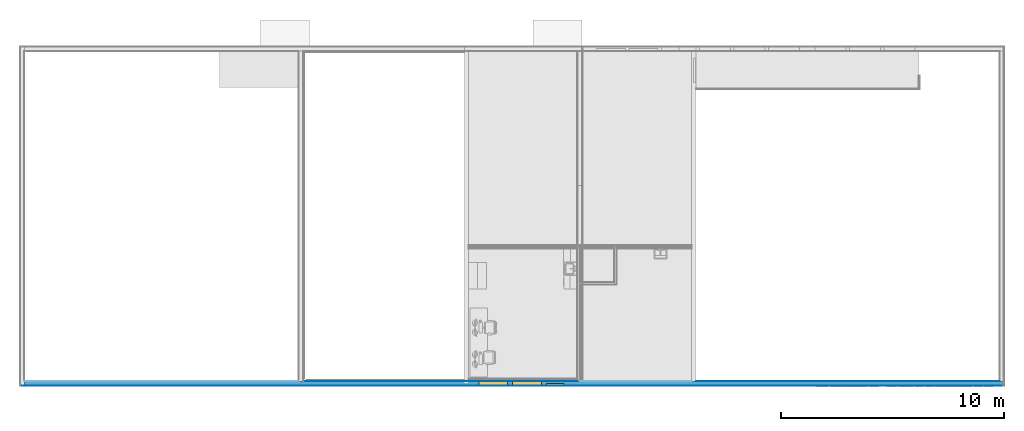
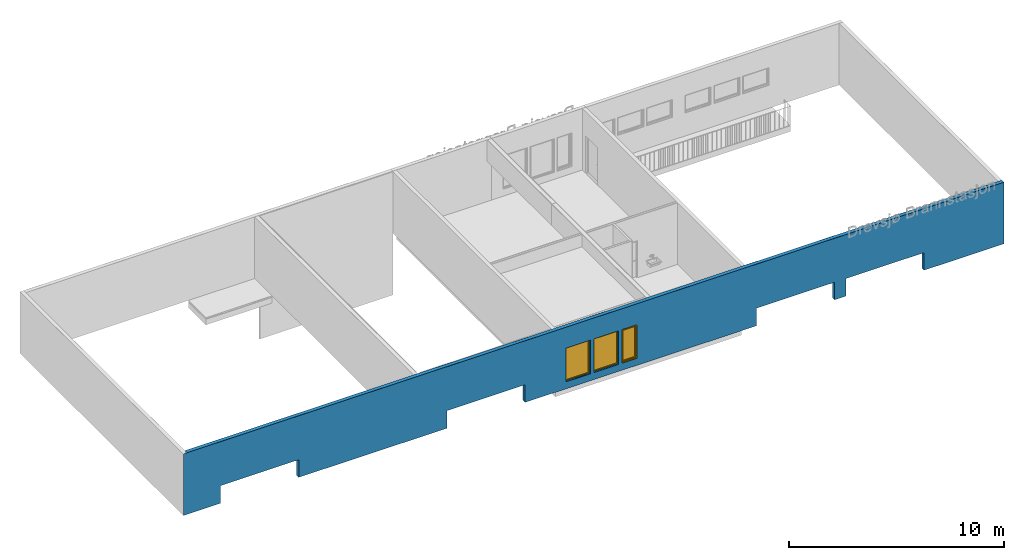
# One storey, part 3 of 12: 4 building element parts, 3 windows, 3 openings, 1 element without a shape of its own, plus 2 elements that do not belong to this part.
"""IFC4 building model written with IfcOpenShell, lengths in millimetres."""

from ifc_helpers import new_model, entity, si_unit, converted_unit, direction, frame, origin, place, context, subcontext, project, spatial, indexed_curve, outline, extrude, polygons, source, transform, mapped, material, constituent, constituent_set, type_object, type_shapes, element, fill, aggregate, save


model = new_model("IFC4")

# Units and contexts
model_context = context("Model", 3, precision=0.01, world=origin(), true_north=direction((0.0, 1.0)))
body_context = subcontext(model_context, "Body", "Model", "MODEL_VIEW")
ifc_project = project(units=[si_unit("LENGTHUNIT", "METRE", prefix="MILLI"), si_unit("AREAUNIT", "SQUARE_METRE"), si_unit("VOLUMEUNIT", "CUBIC_METRE"), converted_unit("PLANEANGLEUNIT", "DEGREE", entity("IfcPlaneAngleMeasure", 0.017453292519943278), si_unit("PLANEANGLEUNIT", "RADIAN"), dimensions=[0, 0, 0, 0, 0, 0, 0])], contexts=[model_context])

# Site, building, storey
site_placement = place(None, origin())
site = spatial("IfcSite", under=ifc_project, at=site_placement, Name="Tomtens navn", CompositionType="ELEMENT")
building_placement = place(site_placement, origin())
building = spatial("IfcBuilding", under=site, at=building_placement, Name="Byggets navn", CompositionType="ELEMENT")
storey_placement = place(building_placement, frame((0.0, 0.0, 3500.0)))
storey = spatial("IfcBuildingStorey", under=building, at=storey_placement, Name="Level 02", CompositionType="ELEMENT", Elevation=3499.999999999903)

# Window
ifc_material_1 = material(Name="NO_Maling - mørk grå", Category="Overflatebehandling")
ifc_constituent_1 = constituent(ifc_material_1, Name="NO_Maling - mørk grå", Category="Overflatebehandling", fraction=0.6291991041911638)
ifc_material_2 = material(Name="NO_Glass - Klart", Category="Unassigned")
ifc_constituent_2 = constituent(ifc_material_2, Name="NO_Glass - Klart", Category="Unassigned", fraction=0.37080089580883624)
ifc_constituent_set_1 = constituent_set(constituents=[ifc_constituent_1, ifc_constituent_2])
ifc_constituent_3 = constituent(ifc_material_1, Name="Frame/Mullion", Category="Overflatebehandling", fraction=0.6291991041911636)
ifc_constituent_4 = constituent(ifc_material_2, Name="Glass", Category="Unassigned", fraction=0.3708008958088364)
ifc_constituent_set_2 = constituent_set(constituents=[ifc_constituent_3, ifc_constituent_4])
window_type_1 = type_object("IfcWindowType", Name="Åpningsvindu:V02 8x19M", PartitioningType="NOTDEFINED", PredefinedType="WINDOW", material=ifc_constituent_set_2)
shared_shape_1 = source(origin(), body_context, "Body", "SweptSolid", [
    extrude(outline(indexed_curve([(-894.9999999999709, -344.9999999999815), (894.9999999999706, -344.9999999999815), (894.9999999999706, 344.9999999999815), (-894.9999999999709, 344.9999999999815), (-894.9999999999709, -344.9999999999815)], self_intersect=False), holes=[indexed_curve([(854.9999999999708, 304.9999999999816), (854.9999999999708, -304.9999999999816), (-854.9999999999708, -304.9999999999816), (-854.9999999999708, 304.9999999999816), (854.9999999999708, 304.9999999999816)], self_intersect=False)]), frame((405.0, 50.0, 955.0), z_axis=(0.0, 1.0, 0.0), x_axis=(0.0, 0.0, -1.0)), (0.0, 0.0, 1.0), 50.0),
    extrude(outline(indexed_curve([(-394.99999999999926, -945.0000000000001), (394.99999999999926, -945.0000000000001), (394.99999999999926, 944.9999999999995), (-394.99999999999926, 944.9999999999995), (-394.99999999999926, -945.0000000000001)], self_intersect=False), holes=[indexed_curve([(344.9999999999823, -894.9999999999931), (-344.999999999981, -894.9999999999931), (-344.9999999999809, 894.9999999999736), (344.99999999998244, 894.9999999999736), (344.9999999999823, -894.9999999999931)], self_intersect=False)]), frame((405.0, 0.0, 955.0), z_axis=(0.0, 1.0, 0.0), x_axis=(1.0, 0.0, 0.0)), (0.0, 0.0, 1.0), 100.0),
    extrude(outline(indexed_curve([(-9.999999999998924, -304.99999999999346), (10.000000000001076, -304.9999999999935), (9.99999999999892, 304.9999999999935), (-10.000000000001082, 304.99999999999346), (-9.999999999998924, -304.99999999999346)], self_intersect=False)), frame((405.0, 75.0, 100.0), z_axis=(0.0, 0.0, 1.0), x_axis=(0.0, -1.0, 0.0)), (0.0, 0.0, 1.0), 1710.0000000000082),
])
type_shapes(window_type_1, [shared_shape_1])
wall_placement = place(storey_placement, frame((82622.85352810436, 7961.466456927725, 0.0), z_axis=(0.0, 0.0, 1.0), x_axis=(-1.0, 0.0, 0.0)))
opening_1_placement = place(wall_placement, frame((20527.0, 100.0, 400.0)))
window_1_placement = place(opening_1_placement, frame((0.0, 0.0, 0.0), z_axis=(0.0, 0.0, 1.0), x_axis=(-1.0, 0.0, 0.0)))
window_1 = element("IfcWindow", 1, at=window_1_placement, inside=storey, type_object=window_type_1, material=ifc_constituent_set_1, Name="Åpningsvindu:V02 8x19M", OverallHeight=1910.0000000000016, OverallWidth=809.9999999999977, PartitioningType="NOTDEFINED", PredefinedType="WINDOW", context=body_context, shape_type="MappedRepresentation", body=[
    mapped(shared_shape_1, transform((0.0, 0.0, 0.0), scale=1.0)),
])

ifc_constituent_5 = constituent(ifc_material_1, Name="NO_Maling - mørk grå", Category="Overflatebehandling", fraction=0.39911882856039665)
ifc_constituent_6 = constituent(ifc_material_2, Name="NO_Glass - Klart", Category="Unassigned", fraction=0.5520539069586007)
ifc_material_3 = material(Name="Hvit", Category="Paint")
ifc_constituent_7 = constituent(ifc_material_3, Name="Hvit", Category="Paint", fraction=0.048827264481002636)
ifc_constituent_set_3 = constituent_set(constituents=[ifc_constituent_5, ifc_constituent_6, ifc_constituent_7])
ifc_constituent_8 = constituent(ifc_material_1, Name="Frame/Mullion", Category="Overflatebehandling", fraction=0.3207999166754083)
ifc_constituent_9 = constituent(ifc_material_2, Name="Glass", Category="Unassigned", fraction=0.4437246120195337)
ifc_constituent_10 = constituent(ifc_material_3, Name="Frame/Mullion", Category="Paint", fraction=0.23547547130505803)
ifc_constituent_set_4 = constituent_set(constituents=[ifc_constituent_8, ifc_constituent_9, ifc_constituent_10])
window_type_2 = type_object("IfcWindowType", Name="Fastvindu:V01 13x19M", PartitioningType="NOTDEFINED", PredefinedType="WINDOW", material=ifc_constituent_set_4)
shared_shape_2 = source(origin(), body_context, "Body", "SweptSolid", [
    extrude(outline(indexed_curve([(-644.9999999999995, -944.9999999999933), (644.9999999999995, -944.9999999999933), (644.9999999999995, 944.9999999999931), (-644.9999999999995, 944.9999999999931), (-644.9999999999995, -944.9999999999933)], self_intersect=False), holes=[indexed_curve([(594.9999999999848, -895.0000000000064), (-594.9999999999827, -895.0000000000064), (-594.9999999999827, 894.9999999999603), (594.9999999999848, 894.9999999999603), (594.9999999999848, -895.0000000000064)], self_intersect=False)]), frame((739.7965385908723, 90.0, 955.0), z_axis=(0.0, -1.0, 0.0), x_axis=(-1.0, 0.0, 0.0)), (0.0, 0.0, 1.0), 100.0),
    extrude(outline(indexed_curve([(-594.999999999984, -10.00000000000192), (594.999999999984, -9.99999999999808), (594.9999999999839, 10.00000000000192), (-594.9999999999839, 9.99999999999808), (-594.999999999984, -10.00000000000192)], self_intersect=False)), frame((739.7965385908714, 65.0, 60.0), z_axis=(0.0, 0.0, 1.0), x_axis=(-1.0, 0.0, 0.0)), (0.0, 0.0, 1.0), 1789.9999999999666),
    extrude(outline(indexed_curve([(-644.9999999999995, -944.9999999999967), (644.9999999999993, -944.999999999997), (644.9999999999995, 944.9999999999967), (-644.9999999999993, 944.999999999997), (-644.9999999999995, -944.9999999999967)], self_intersect=False), holes=[indexed_curve([(-624.9999999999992, 924.9999999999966), (624.9999999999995, 924.9999999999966), (624.9999999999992, -924.9999999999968), (-624.9999999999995, -924.9999999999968), (-624.9999999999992, 924.9999999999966)], self_intersect=False)]), frame((739.7965385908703, -10.0, 955.0), z_axis=(0.0, -1.0, 0.0), x_axis=(1.0, 0.0, 0.0)), (0.0, 0.0, 1.0), 29.999999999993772),
])
type_shapes(window_type_2, [shared_shape_2])
opening_2_placement = place(wall_placement, frame((20727.0, -100.0, 400.0)))
window_2_placement = place(opening_2_placement, frame((-84.7965385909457, 40.0, 0.0)))
window_2 = element("IfcWindow", 2, at=window_2_placement, inside=storey, type_object=window_type_2, material=ifc_constituent_set_3, Name="Fastvindu:V01 13x19M", OverallHeight=1910.000000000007, OverallWidth=1310.0000000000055, PartitioningType="NOTDEFINED", PredefinedType="WINDOW", context=body_context, shape_type="MappedRepresentation", body=[
    mapped(shared_shape_2, transform((0.0, 0.0, 0.0), scale=1.0)),
])

ifc_constituent_11 = constituent(ifc_material_1, Name="NO_Maling - mørk grå", Category="Overflatebehandling", fraction=0.39911882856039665)
ifc_constituent_12 = constituent(ifc_material_2, Name="NO_Glass - Klart", Category="Unassigned", fraction=0.5520539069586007)
ifc_constituent_13 = constituent(ifc_material_3, Name="Hvit", Category="Paint", fraction=0.048827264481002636)
ifc_constituent_set_5 = constituent_set(constituents=[ifc_constituent_11, ifc_constituent_12, ifc_constituent_13])
opening_3_placement = place(wall_placement, frame((22237.0, -100.0, 400.0)))
window_3_placement = place(opening_3_placement, frame((-84.79653859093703, 40.0, 0.0)))
window_3 = element("IfcWindow", 3, at=window_3_placement, inside=storey, type_object=window_type_2, material=ifc_constituent_set_5, Name="Fastvindu:V01 13x19M", OverallHeight=1910.000000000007, OverallWidth=1310.0000000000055, PartitioningType="NOTDEFINED", PredefinedType="WINDOW", context=body_context, shape_type="MappedRepresentation", body=[
    mapped(shared_shape_2, transform((0.0, 0.0, 0.0), scale=1.0)),
])

# Wall, opening
wall_type = type_object("IfcWallType", Name="Basic Wall:YV02 Sandwichvegg 200", PredefinedType="STANDARD")
wall = element("IfcWall", 4, at=wall_placement, inside=storey, type_object=wall_type, Name="Basic Wall:YV02 Sandwichvegg 200", PredefinedType="NOTDEFINED")
opening_1 = element("IfcOpeningElement", 5, at=opening_1_placement, cuts=wall, Name="Åpningsvindu:V02 8x19M:1", PredefinedType="OPENING", context=body_context, shape_type="SweptSolid", body=[
    extrude(outline(indexed_curve([(0.0, -5.414335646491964e-13), (1910.0000000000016, -5.414335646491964e-13), (1910.0000000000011, 809.9999999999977), (0.0, 809.9999999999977), (0.0, -5.414335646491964e-13)], self_intersect=False)), frame((0.0, 0.0, 0.0), z_axis=(0.0, -1.0, 0.0), x_axis=(0.0, 0.0, 1.0)), (0.0, 0.0, 1.0), 200.0),
])

fill(opening_1, window_1)

# Opening
opening_2 = element("IfcOpeningElement", 6, at=opening_2_placement, cuts=wall, Name="Fastvindu:V01 13x19M:1", PredefinedType="OPENING", context=body_context, shape_type="SweptSolid", body=[
    extrude(outline(indexed_curve([(0.0, 1310.0000000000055), (0.0, 1.4975171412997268e-29), (1910.000000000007, 1.4975171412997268e-29), (1910.000000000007, 1310.0000000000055), (0.0, 1310.0000000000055)], self_intersect=False)), frame((0.0, 0.0, 0.0), z_axis=(0.0, 1.0, 0.0), x_axis=(0.0, 0.0, 1.0)), (0.0, 0.0, 1.0), 200.0),
])

fill(opening_2, window_2)

opening_3 = element("IfcOpeningElement", 7, at=opening_3_placement, cuts=wall, Name="Fastvindu:V01 13x19M:1", PredefinedType="OPENING", context=body_context, shape_type="SweptSolid", body=[
    extrude(outline(indexed_curve([(0.0, 1310.0000000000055), (0.0, 1.6847067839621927e-29), (1910.000000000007, 1.6847067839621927e-29), (1910.000000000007, 1310.0000000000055), (0.0, 1310.0000000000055)], self_intersect=False)), frame((0.0, 0.0, 0.0), z_axis=(0.0, 1.0, 0.0), x_axis=(0.0, 0.0, 1.0)), (0.0, 0.0, 1.0), 200.0),
])

fill(opening_3, window_3)

# Building element part
ifc_material_4 = material(Name="Metall - Malt overflate - Mørk Grå, Matt", Category="Unassigned")
building_element_part_1_placement = place(wall_placement, frame((44108.0, 100.0, 0.0)))
building_element_part_1 = element("IfcBuildingElementPart", 8, at=building_element_part_1_placement, material=ifc_material_4, Name="Metall - Malt overflate - Mørk Grå, Matt", context=body_context, shape_type="Tessellation", body=[
    polygons([(-22071.000000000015, -1.9999999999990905, 2310.000000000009), (-22071.000000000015, -1.9999999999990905, 400.0000000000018), (-23381.000000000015, -1.999999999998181, 400.0000000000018), (-23381.000000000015, -1.999999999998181, 2310.000000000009), (-20561.00000000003, -1.9999999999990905, 2310.000000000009), (-20561.000000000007, -1.9999999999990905, 400.0000000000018), (-21871.000000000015, -1.9999999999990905, 400.0000000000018), (-21871.000000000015, -1.9999999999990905, 2310.000000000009), (-23581.000000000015, -1.999999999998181, 2310.0000000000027), (-23581.000000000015, -1.999999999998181, 400.00000000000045), (-24391.000000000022, -1.999999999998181, 400.00000000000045), (-24391.000000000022, -1.999999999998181, 2310.0000000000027), (-14168.000000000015, -1.999999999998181, 4.547473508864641e-13), (-6208.000000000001, -1.9999999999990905, 4.547473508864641e-13), (-6207.999999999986, -1.9999999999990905, 1000.0000000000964), (-2008.000000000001, -1.9999999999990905, 1000.0000000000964), (-2008.000000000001, -1.9999999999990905, 4.547473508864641e-13), (-8.699627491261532e-13, -1.9999999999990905, 4.547473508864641e-13), (-8.699627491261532e-13, -1.9999999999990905, 3499.9999999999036), (-44107.99999999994, -1.9999999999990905, 3499.9999999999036), (-44107.99999999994, -1.9999999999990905, 4.547473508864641e-13), (-39808.00000000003, -1.9999999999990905, 4.547473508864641e-13), (-39808.00000000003, -1.9999999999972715, 999.9999999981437), (-35608.00000000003, -1.999999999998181, 999.9999999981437), (-35608.00000000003, -1.999999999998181, 4.547473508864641e-13), (-35008.000000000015, -1.999999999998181, 4.547473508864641e-13), (-35008.000000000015, -1.999999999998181, 999.9999999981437), (-30808.000000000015, -1.9999999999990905, 999.9999999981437), (-30808.000000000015, -1.9999999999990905, 4.547473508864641e-13), (-18368.000000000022, -1.9999999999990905, 4.547473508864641e-13), (-18368.000000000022, -1.9999999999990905, 1000.0000000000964), (-14168.000000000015, -1.999999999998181, 1000.0000000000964), (-44107.99999999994, 9.094947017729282e-13, 4.547473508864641e-13), (-39808.00000000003, 9.094947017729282e-13, 4.547473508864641e-13), (-43907.99999999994, 9.094947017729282e-13, 3499.9999999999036), (-44107.99999999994, 9.094947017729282e-13, 3499.9999999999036), (-8.697414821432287e-13, 9.094947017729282e-13, 3499.9999999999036), (-23581.000000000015, 9.094947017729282e-13, 2310.0000000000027), (-23581.000000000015, 9.094947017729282e-13, 400.00000000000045), (-24391.000000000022, 9.094947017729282e-13, 2310.0000000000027), (-24391.000000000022, 9.094947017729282e-13, 400.00000000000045), (-20561.00000000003, 0.0, 2310.000000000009), (-20561.000000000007, 0.0, 400.0000000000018), (-21871.000000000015, 0.0, 2310.000000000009), (-21871.000000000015, 0.0, 400.0000000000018), (-22071.000000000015, 0.0, 2310.000000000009), (-22071.000000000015, 0.0, 400.0000000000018), (-23381.000000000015, 9.094947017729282e-13, 2310.000000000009), (-23381.000000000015, 9.094947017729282e-13, 400.0000000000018), (-14168.000000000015, 1.8189894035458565e-12, 1000.0000000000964), (-14168.000000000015, 1.8189894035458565e-12, 4.547473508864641e-13), (-18368.000000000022, 0.0, 1000.0000000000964), (-18368.000000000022, 0.0, 4.547473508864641e-13), (-35008.000000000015, 9.094947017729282e-13, 4.547473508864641e-13), (-35008.00000000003, 9.094947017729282e-13, 999.9999999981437), (-30808.000000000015, 0.0, 999.9999999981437), (-30808.000000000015, 0.0, 4.547473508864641e-13), (-39808.00000000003, 9.094947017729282e-13, 999.9999999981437), (-35608.00000000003, 9.094947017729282e-13, 999.9999999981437), (-35608.00000000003, 9.094947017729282e-13, 4.547473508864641e-13), (-2008.000000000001, 9.094947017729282e-13, 1000.0000000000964), (-2008.0000000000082, 9.094947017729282e-13, 4.547473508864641e-13), (-6208.000000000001, 9.094947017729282e-13, 1000.0000000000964), (-6208.000000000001, 9.094947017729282e-13, 4.547473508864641e-13), (-12498.000000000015, 0.0, 4.547473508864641e-13), (-12698.000000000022, 0.0, 4.547473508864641e-13), (-8.697414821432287e-13, 9.094947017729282e-13, 4.547473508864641e-13)], [[[13, 14, 15, 16, 17, 18, 19, 20, 21, 22, 23, 24, 25, 26, 27, 28, 29, 30, 31, 32], [1, 2, 3, 4], [5, 6, 7, 8], [9, 10, 11, 12]], [[33, 34, 22, 21]], [[35, 36, 20, 19, 37]], [[38, 39, 10, 9]], [[40, 38, 9, 12]], [[41, 40, 12, 11]], [[39, 41, 11, 10]], [[42, 43, 6, 5]], [[44, 42, 5, 8]], [[45, 44, 8, 7]], [[43, 45, 7, 6]], [[46, 47, 2, 1]], [[48, 46, 1, 4]], [[49, 48, 4, 3]], [[47, 49, 3, 2]], [[50, 51, 13, 32]], [[52, 50, 32, 31]], [[53, 52, 31, 30]], [[54, 55, 27, 26]], [[55, 56, 28, 27]], [[56, 57, 29, 28]], [[34, 58, 23, 22]], [[58, 59, 24, 23]], [[59, 60, 25, 24]], [[36, 33, 21, 20]], [[61, 62, 17, 16]], [[63, 61, 16, 15]], [[64, 63, 15, 14]], [[60, 54, 26, 25]], [[57, 53, 30, 29]], [[65, 64, 14, 13, 51, 66]], [[62, 67, 18, 17]], [[36, 35, 37, 67, 62, 61, 63, 64, 65, 66, 51, 50, 52, 53, 57, 56, 55, 54, 60, 59, 58, 34, 33], [39, 38, 40, 41], [43, 42, 44, 45], [47, 46, 48, 49]], [[67, 37, 19, 18]]], closed=True),
])

ifc_material_5 = material(Name="Rustfritt Stål", Category="Metal")
building_element_part_2_placement = place(wall_placement, frame((19005.499999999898, -98.0, 0.0)))
building_element_part_2 = element("IfcBuildingElementPart", 9, at=building_element_part_2_placement, material=ifc_material_5, Name="Rustfritt Stål", context=body_context, shape_type="Tessellation", body=[
    polygons([(-8.916469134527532e-13, 9.094947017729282e-13, -9.094947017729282e-13), (-8.916469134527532e-13, 9.094947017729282e-13, 2290.000000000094), (-8.918681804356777e-13, -1.9999999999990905, 2290.000000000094), (-8.918681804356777e-13, -1.9999999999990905, -9.094947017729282e-13), (-5005.499999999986, -1.8189894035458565e-12, 3499.9999999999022), (-5005.499999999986, -1.8189894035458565e-12, -9.094947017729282e-13), (-5005.499999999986, -2.0000000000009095, -9.094947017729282e-13), (-5005.499999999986, -2.0000000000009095, 3499.999999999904), (-104.99999999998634, -1.9999999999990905, 2290.000000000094), (-104.99999999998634, 9.094947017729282e-13, 2290.000000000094), (-104.99999999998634, 9.094947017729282e-13, 3499.9999999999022), (-104.99999999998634, -1.9999999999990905, 3499.999999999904), (-130.99999999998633, -1.9999999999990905, 3499.999999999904), (-28.00000000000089, -1.9999999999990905, -9.094947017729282e-13)], [[[1, 2, 3, 4]], [[5, 6, 7, 8]], [[9, 10, 11, 12]], [[10, 9, 3, 2]], [[13, 8, 7, 14, 4, 3, 9, 12]], [[14, 7, 6, 1, 4]], [[8, 13, 12, 11, 5]], [[2, 1, 6, 5, 11, 10]]], closed=True),
])

building_element_part_3_placement = place(wall_placement, frame((31412.0, -98.0, 0.0)))
building_element_part_3 = element("IfcBuildingElementPart", 10, at=building_element_part_3_placement, material=ifc_material_5, Name="Rustfritt Stål", context=body_context, shape_type="Tessellation", body=[
    polygons([(-10885.0, 0.0, 2310.000000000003), (-10885.0, 0.0, 400.0000000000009), (-10885.0, -2.0, 400.0000000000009), (-10885.0, -2.0, 2310.000000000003), (-11695.000000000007, 0.0, 2310.000000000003), (-11695.000000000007, -2.0, 2310.000000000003), (-11695.000000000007, 0.0, 400.0000000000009), (-11695.000000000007, -2.0, 400.0000000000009), (-7865.0000000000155, -9.094947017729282e-13, 2310.0000000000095), (-7864.999999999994, -9.094947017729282e-13, 400.0000000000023), (-7864.999999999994, -2.0000000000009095, 400.0000000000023), (-7864.999999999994, -2.0000000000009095, 2310.0000000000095), (-9175.0, -9.094947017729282e-13, 2310.0000000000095), (-9175.0, -2.0000000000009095, 2310.0000000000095), (-9175.0, -9.094947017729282e-13, 400.0000000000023), (-9175.0, -2.0000000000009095, 400.0000000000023), (-9375.0, -9.094947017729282e-13, 2310.0000000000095), (-9375.0, -9.094947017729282e-13, 400.0000000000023), (-9375.0, -2.0000000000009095, 400.0000000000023), (-9375.0, -2.0000000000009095, 2310.0000000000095), (-10685.0, 0.0, 2310.0000000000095), (-10685.0, -2.0, 2310.0000000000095), (-10685.0, 0.0, 400.0000000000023), (-10685.0, -2.0, 400.0000000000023), (-1472.000000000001, -9.094947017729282e-13, 1000.0000000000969), (-1472.000000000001, -9.094947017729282e-13, 9.094947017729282e-13), (-1472.000000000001, -2.0000000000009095, 9.094947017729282e-13), (-1472.000000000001, -2.0000000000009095, 1000.0000000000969), (-5672.000000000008, 0.0, 1000.0000000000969), (-5672.000000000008, -2.0000000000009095, 1000.0000000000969), (-5672.000000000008, -9.094947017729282e-13, 9.094947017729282e-13), (-5672.000000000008, -2.0000000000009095, 9.094947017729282e-13), (-8.16760452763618e-12, -9.094947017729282e-13, 9.094947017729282e-13), (-8.167825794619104e-12, -2.0000000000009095, 9.094947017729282e-13), (-2.0000000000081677, -2.0000000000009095, 9.094947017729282e-13), (-8.16760452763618e-12, -9.094947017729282e-13, 3499.999999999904), (-8.167825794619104e-12, -2.0000000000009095, 3499.999999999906), (-12311.50000000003, 0.0, 9.094947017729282e-13), (-12311.50000000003, -2.0, 9.094947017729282e-13), (-12311.500000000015, -2.0, 3499.999999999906), (-12311.500000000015, 0.0, 3499.999999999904), (-7412.000000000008, -2.0000000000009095, 3499.999999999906), (-12285.500000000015, -2.0, 3499.999999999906), (-12285.50000000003, -2.0, 9.094947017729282e-13), (-7412.000000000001, -2.0000000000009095, 9.094947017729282e-13), (-2.0000000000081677, -2.0000000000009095, 3499.999999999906)], [[[1, 2, 3, 4]], [[5, 1, 4, 6]], [[7, 5, 6, 8]], [[2, 7, 8, 3]], [[9, 10, 11, 12]], [[13, 9, 12, 14]], [[15, 13, 14, 16]], [[10, 15, 16, 11]], [[17, 18, 19, 20]], [[21, 17, 20, 22]], [[23, 21, 22, 24]], [[18, 23, 24, 19]], [[25, 26, 27, 28]], [[29, 25, 28, 30]], [[31, 29, 30, 32]], [[27, 26, 33, 34, 35]], [[33, 36, 37, 34]], [[38, 39, 40, 41]], [[42, 43, 40, 39, 44, 45, 32, 30, 28, 27, 35, 34, 37, 46], [4, 3, 8, 6], [12, 11, 16, 14], [20, 19, 24, 22]], [[31, 32, 45, 44, 39, 38]], [[43, 42, 46, 37, 36, 41, 40]], [[26, 25, 29, 31, 38, 41, 36, 33], [2, 1, 5, 7], [10, 9, 13, 15], [18, 17, 21, 23]]], closed=True),
])

building_element_part_4_placement = place(wall_placement, frame((43910.0, -98.0, 0.0)))
building_element_part_4 = element("IfcBuildingElementPart", 11, at=building_element_part_4_placement, material=ifc_material_5, Name="Rustfritt Stål", context=body_context, shape_type="Tessellation", body=[
    polygons([(-12300.000000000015, -2.0, 3499.9999999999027), (-8.918681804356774e-13, -1.9999999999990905, 3499.9999999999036), (-8.91646913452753e-13, 0.0, 3499.9999999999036), (-12302.000000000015, 0.0, 3499.9999999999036), (-12302.000000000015, -2.0, 3499.9999999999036), (-8.91646913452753e-13, 0.0, 4.547473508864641e-13), (-8.918681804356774e-13, -1.9999999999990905, 4.547473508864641e-13), (-1810.0000000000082, 0.0, 1000.0000000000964), (-1810.000000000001, 0.0, 4.547473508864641e-13), (-1810.0000000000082, -1.9999999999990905, 4.547473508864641e-13), (-1810.000000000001, -1.9999999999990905, 1000.0000000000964), (-6009.999999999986, -9.094947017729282e-13, 1000.0000000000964), (-6010.000000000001, -2.0000000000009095, 1000.0000000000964), (-6010.000000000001, -9.094947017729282e-13, 4.547473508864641e-13), (-6010.000000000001, -2.0000000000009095, 4.547473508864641e-13), (-12302.000000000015, 0.0, 4.547473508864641e-13), (-12302.000000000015, -2.0, 4.547473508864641e-13), (-12300.000000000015, -2.0, 4.547473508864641e-13)], [[[1, 2, 3, 4, 5]], [[6, 3, 2, 7]], [[8, 9, 10, 11]], [[12, 8, 11, 13]], [[14, 12, 13, 15]], [[9, 6, 7, 10]], [[4, 16, 17, 5]], [[2, 1, 5, 17, 18, 15, 13, 11, 10, 7]], [[14, 15, 18, 17, 16]], [[3, 6, 9, 8, 12, 14, 16, 4]]], closed=True),
])

building_element_part_5_placement = place(wall_placement, frame((13800.0, -98.0, 0.0)))
building_element_part_5 = element("IfcBuildingElementPart", 12, at=building_element_part_5_placement, material=ifc_material_5, Name="Rustfritt Stål", context=body_context, shape_type="Tessellation", body=[
    polygons([(-500.0000000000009, -3.637978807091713e-12, 9.094947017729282e-13), (-500.0000000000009, -3.637978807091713e-12, 999.9999999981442), (-4700.000000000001, -2.7284841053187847e-12, 999.9999999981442), (-4700.000000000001, -2.7284841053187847e-12, 9.094947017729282e-13), (-5300.0000000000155, -2.7284841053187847e-12, 9.094947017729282e-13), (-5300.0000000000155, -2.7284841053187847e-12, 999.9999999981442), (-9500.000000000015, -1.8189894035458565e-12, 999.9999999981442), (-9500.000000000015, -1.8189894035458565e-12, 9.094947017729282e-13), (-13601.999999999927, -1.8189894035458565e-12, 9.094947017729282e-13), (-13601.999999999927, -1.8189894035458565e-12, 3499.999999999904), (-1.5443562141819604e-11, -3.637978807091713e-12, 3499.999999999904), (-1.5443562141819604e-11, -9.094947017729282e-13, 9.094947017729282e-13), (-9500.000000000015, -2.0000000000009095, 9.094947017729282e-13), (-13599.999999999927, -2.0000000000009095, 9.094947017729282e-13), (-13601.999999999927, -2.0000000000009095, 9.094947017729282e-13), (-4700.000000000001, -2.000000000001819, 999.9999999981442), (-4700.000000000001, -2.000000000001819, 9.094947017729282e-13), (-500.0000000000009, -2.0000000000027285, 999.9999999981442), (-500.0000000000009, -2.0000000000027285, 9.094947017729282e-13), (-9500.000000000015, -2.0000000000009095, 999.9999999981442), (-5300.0000000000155, -2.000000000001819, 999.9999999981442), (-5300.0000000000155, -2.000000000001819, 9.094947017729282e-13), (-1.544378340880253e-11, -2.0000000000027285, 9.094947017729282e-13), (-1.544378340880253e-11, -2.0000000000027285, 3499.999999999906), (-13599.999999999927, -2.0000000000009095, 3499.999999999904), (-13601.999999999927, -2.0000000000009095, 3499.999999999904)], [[[1, 2, 3, 4, 5, 6, 7, 8, 9, 10, 11, 12]], [[9, 8, 13, 14, 15]], [[4, 3, 16, 17]], [[3, 2, 18, 16]], [[2, 1, 19, 18]], [[8, 7, 20, 13]], [[7, 6, 21, 20]], [[6, 5, 22, 21]], [[5, 4, 17, 22]], [[19, 1, 12, 23]], [[15, 14, 13, 20, 21, 22, 17, 16, 18, 19, 23, 24, 25, 26]], [[15, 26, 10, 9]], [[12, 11, 24, 23]], [[26, 25, 24, 11, 10]]], closed=True),
])

ifc_material_6 = material(Name="NO_Isolasjon - Fast", Category="Isolasjon")
building_element_part_6_placement = place(wall_placement, frame((43912.0, 98.0, 0.0)))
building_element_part_6 = element("IfcBuildingElementPart", 13, at=building_element_part_6_placement, material=ifc_material_6, Name="NO_Isolasjon - Fast", context=body_context, shape_type="Tessellation", body=[
    polygons([(-21875.000000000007, -9.094947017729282e-13, 400.0000000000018), (-21875.000000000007, -9.094947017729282e-13, 2310.000000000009), (-23185.000000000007, 0.0, 2310.000000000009), (-23185.000000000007, 0.0, 400.0000000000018), (-20365.0, -9.094947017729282e-13, 400.0000000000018), (-20365.000000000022, -9.094947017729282e-13, 2310.000000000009), (-21675.000000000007, -9.094947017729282e-13, 2310.000000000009), (-21675.000000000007, -9.094947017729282e-13, 400.0000000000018), (-23385.000000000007, 0.0, 400.00000000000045), (-23385.000000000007, 0.0, 2310.0000000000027), (-24195.000000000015, 0.0, 2310.0000000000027), (-24195.000000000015, 0.0, 400.00000000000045), (-6011.999999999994, -9.094947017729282e-13, 4.547473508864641e-13), (-13972.000000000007, 0.0, 4.547473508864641e-13), (-13972.000000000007, 0.0, 1000.0000000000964), (-18172.000000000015, -9.094947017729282e-13, 1000.0000000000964), (-18172.000000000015, -9.094947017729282e-13, 4.547473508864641e-13), (-30612.000000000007, -9.094947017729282e-13, 4.547473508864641e-13), (-30612.000000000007, -9.094947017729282e-13, 999.9999999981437), (-34812.00000000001, 0.0, 999.9999999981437), (-34812.00000000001, 0.0, 4.547473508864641e-13), (-35412.00000000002, 0.0, 4.547473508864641e-13), (-35412.00000000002, 0.0, 999.9999999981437), (-39612.00000000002, 9.094947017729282e-13, 999.9999999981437), (-39612.00000000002, -9.094947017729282e-13, 4.547473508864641e-13), (-43909.99999999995, -9.094947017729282e-13, 4.547473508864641e-13), (-43909.99999999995, -9.094947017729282e-13, 3499.9999999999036), (-8.699627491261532e-13, -9.094947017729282e-13, 3499.9999999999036), (-8.699627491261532e-13, -9.094947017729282e-13, 4.547473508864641e-13), (-1811.9999999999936, -9.094947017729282e-13, 4.547473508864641e-13), (-1811.9999999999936, -9.094947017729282e-13, 1000.0000000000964), (-6011.999999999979, -9.094947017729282e-13, 1000.0000000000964), (-21875.000000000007, -196.00000000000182, 2310.000000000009), (-21875.000000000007, -196.00000000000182, 400.0000000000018), (-23185.000000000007, -196.0000000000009, 400.0000000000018), (-23185.000000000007, -196.0000000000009, 2310.000000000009), (-20365.000000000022, -196.00000000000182, 2310.000000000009), (-20365.0, -196.00000000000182, 400.0000000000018), (-21675.000000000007, -196.00000000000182, 400.0000000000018), (-21675.000000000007, -196.00000000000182, 2310.000000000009), (-23385.000000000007, -196.0000000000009, 2310.0000000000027), (-23385.000000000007, -196.0000000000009, 400.00000000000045), (-24195.000000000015, -196.0000000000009, 400.00000000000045), (-24195.000000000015, -196.0000000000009, 2310.0000000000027), (-13972.000000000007, -196.00000000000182, 4.547473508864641e-13), (-6011.999999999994, -196.00000000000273, 4.547473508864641e-13), (-6011.999999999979, -196.00000000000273, 1000.0000000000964), (-1812.000000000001, -196.00000000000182, 1000.0000000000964), (-1811.9999999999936, -196.00000000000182, 4.547473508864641e-13), (-8.91646913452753e-13, -196.00000000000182, 4.547473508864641e-13), (-8.91646913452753e-13, -196.00000000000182, 3499.9999999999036), (-43909.99999999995, -196.00000000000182, 3499.9999999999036), (-43909.99999999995, -196.00000000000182, 4.547473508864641e-13), (-39612.00000000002, -196.00000000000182, 4.547473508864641e-13), (-39612.00000000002, -196.00000000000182, 999.9999999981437), (-35412.00000000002, -196.00000000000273, 999.9999999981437), (-35412.00000000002, -196.00000000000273, 4.547473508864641e-13), (-34812.00000000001, -196.00000000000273, 4.547473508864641e-13), (-34812.00000000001, -196.00000000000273, 999.9999999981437), (-30612.000000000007, -196.00000000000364, 999.9999999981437), (-30612.000000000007, -196.00000000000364, 4.547473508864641e-13), (-18172.000000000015, -196.00000000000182, 4.547473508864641e-13), (-18172.000000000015, -196.0000000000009, 1000.0000000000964), (-13972.000000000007, -196.00000000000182, 1000.0000000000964)], [[[13, 14, 15, 16, 17, 18, 19, 20, 21, 22, 23, 24, 25, 26, 27, 28, 29, 30, 31, 32], [1, 2, 3, 4], [5, 6, 7, 8], [9, 10, 11, 12]], [[45, 46, 47, 48, 49, 50, 51, 52, 53, 54, 55, 56, 57, 58, 59, 60, 61, 62, 63, 64], [33, 34, 35, 36], [37, 38, 39, 40], [41, 42, 43, 44]], [[53, 26, 25, 54]], [[51, 28, 27, 52]], [[9, 42, 41, 10]], [[10, 41, 44, 11]], [[11, 44, 43, 12]], [[42, 9, 12, 43]], [[5, 38, 37, 6]], [[6, 37, 40, 7]], [[7, 40, 39, 8]], [[38, 5, 8, 39]], [[1, 34, 33, 2]], [[2, 33, 36, 3]], [[3, 36, 35, 4]], [[34, 1, 4, 35]], [[14, 45, 64, 15]], [[15, 64, 63, 16]], [[62, 17, 16, 63]], [[58, 21, 20, 59]], [[59, 20, 19, 60]], [[18, 61, 60, 19]], [[54, 25, 24, 55]], [[55, 24, 23, 56]], [[22, 57, 56, 23]], [[30, 49, 48, 31]], [[31, 48, 47, 32]], [[46, 13, 32, 47]], [[45, 14, 13, 46]], [[21, 58, 57, 22]], [[17, 62, 61, 18]], [[29, 50, 49, 30]], [[50, 29, 28, 51]], [[26, 53, 52, 27]]], closed=True),
])

aggregate(wall, [building_element_part_1, building_element_part_2, building_element_part_3, building_element_part_4, building_element_part_5, building_element_part_6])

save(model, "model.ifc")
